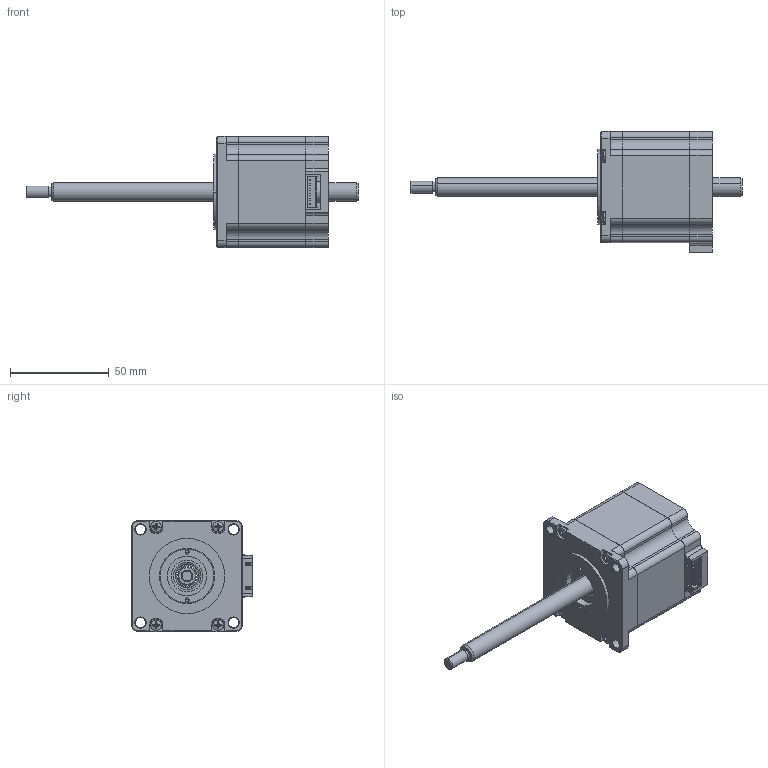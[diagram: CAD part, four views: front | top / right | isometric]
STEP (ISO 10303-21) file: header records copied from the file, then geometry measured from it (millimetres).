
FILE_DESCRIPTION (( 'STEP AP203' ), '1' );
FILE_NAME ('LN238S-E09050-155-S-220.STEP', '2019-04-13T02:42:28', ( 'Sky123.Org' ), ( 'Sky123.Org' ), 'SwSTEP 2.0', 'SolidWorks 2014', '' );
FILE_SCHEMA (( 'CONFIG_CONTROL_DESIGN' ));
Length unit declared in the file: millimetre
Products named in the file (1): LN238S-E09050-155-S-220
Bounding box: 168 x 61.2 x 56.2 mm (x, y, z)
Surface area: 31957.9 mm2 (no closed solid volume)
Topology: 0 solids, 18 shells, 389 faces, 1125 edges, 750 vertices
Faces by surface type: plane 193, cylinder 94, cone 90, sphere 8, torus 4
Entity records: 13231 total; most frequent: CARTESIAN_POINT 2897, DIRECTION 2175, ORIENTED_EDGE 2004, EDGE_CURVE 1125, AXIS2_PLACEMENT_3D 764, VERTEX_POINT 750, LINE 647, VECTOR 647
